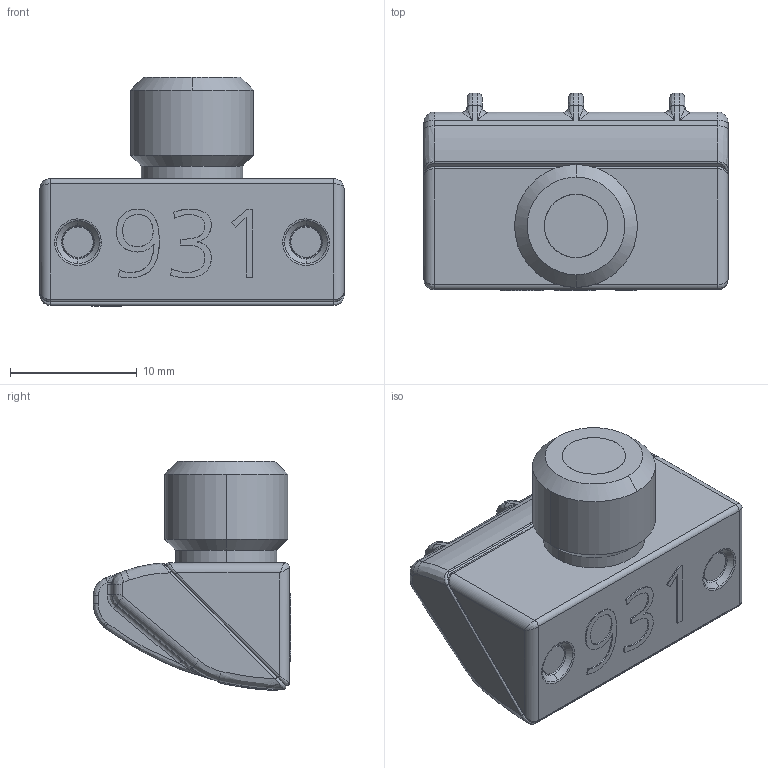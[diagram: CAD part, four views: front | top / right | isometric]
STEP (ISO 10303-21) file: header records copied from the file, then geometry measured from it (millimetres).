
FILE_DESCRIPTION (( 'STEP AP214' ), '1' );
FILE_NAME ('931.STEP', '2016-11-16T14:23:32', ( '' ), ( '' ), 'SwSTEP 2.0', 'SolidWorks 2016', '' );
FILE_SCHEMA (( 'AUTOMOTIVE_DESIGN' ));
Length unit declared in the file: millimetre
Products named in the file (2): 931; Silvent 931_step_1
Assembly tree (1 placements, depth 2):
  931
    Silvent 931_step_1
Bounding box: 24 x 15.6 x 18.08 mm (x, y, z)
Volume: 2158.4 mm3; surface area: 2748.8 mm2
Topology: 2 solids, 2 shells, 448 faces, 1129 edges, 684 vertices
Faces by surface type: bspline 240, plane 103, cylinder 95, cone 10
Entity records: 24221 total; most frequent: CARTESIAN_POINT 10399, ORIENTED_EDGE 2222, DIRECTION 1239, EDGE_CURVE 1111, VERTEX_POINT 684, EDGE_LOOP 465, B_SPLINE_CURVE_WITH_KNOTS 465, UNCERTAINTY_MEASURE_WITH_UNIT 453
